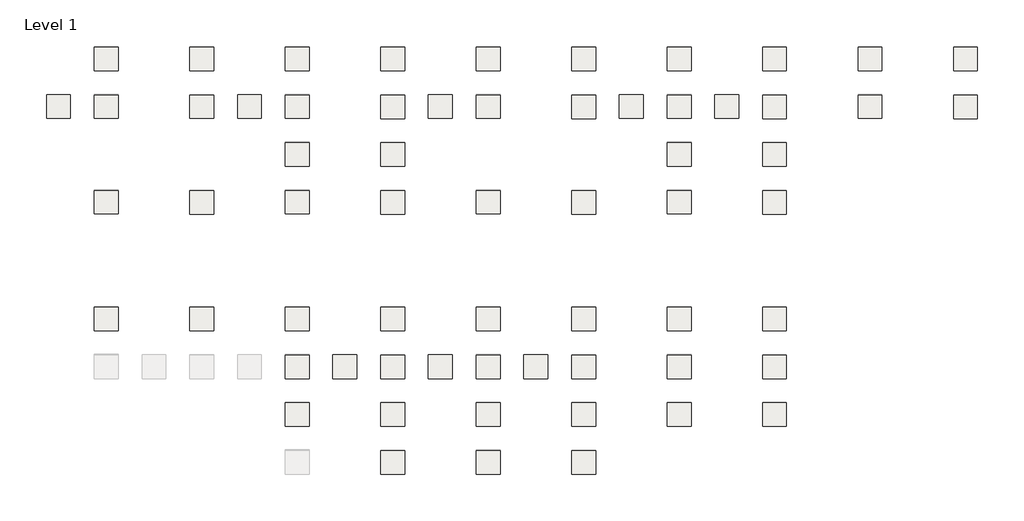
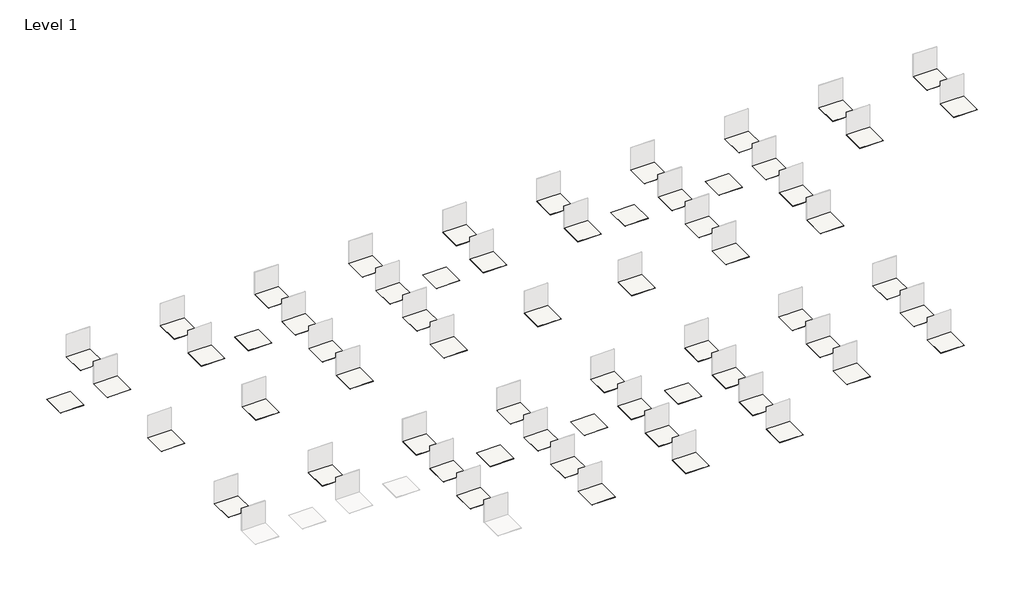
# One storey, part 2 of 2: 63 coverings.
"""IFC4 building model written with IfcOpenShell, lengths in millimetres."""

from ifc_helpers import new_model, si_unit, frame, origin, place, context, project, spatial, polyline, outline, extrude, element, save

model = new_model("IFC4")

# Units and contexts
model_context = context("Model", 3, world=origin())
ifc_project = project(units=[si_unit("LENGTHUNIT", "METRE", prefix="MILLI")], contexts=[model_context])

# Site, building, storey
site = spatial("IfcSite", under=ifc_project)
building = spatial("IfcBuilding", under=site)
storey = spatial("IfcBuildingStorey", under=building, Name="Level 1", Elevation=0.0)

# Coverings
placement = place(None, origin())
element("IfcCovering", 1, ObjectType="MARGRES-TIME 2.0-BASE-30X60-NR-BEIGE", at=placement, inside=storey, context=model_context, shape_type="SweptSolid", body=[
    extrude(outline(polyline([(5212.2694795, -3958.5049043), (5212.2694795, -4958.5049043), (4212.2694795, -4958.5049043), (4212.2694795, -3958.5049043), (5212.2694795, -3958.5049043)])), frame((0.0, 0.0, -10.0), z_axis=(0.0, 0.0, 1.0), x_axis=(1.0, 0.0, 0.0)), (0.0, 0.0, 1.0), 10.0),
])
element("IfcCovering", 2, ObjectType="MARGRES-TIME 2.0-BASE-30X60-P-BEIGE", at=placement, inside=storey, context=model_context, shape_type="SweptSolid", body=[
    extrude(outline(polyline([(9212.2694795, -3958.5049043), (9212.2694795, -4958.5049043), (8212.2694795, -4958.5049043), (8212.2694795, -3958.5049043), (9212.2694795, -3958.5049043)])), frame((0.0, 0.0, -9.5), z_axis=(0.0, 0.0, 1.0), x_axis=(1.0, 0.0, 0.0)), (0.0, 0.0, 1.0), 9.5),
])
element("IfcCovering", 3, ObjectType="MARGRES-TIME 2.0-BASE-60X60-ASR-BEIGE", at=placement, inside=storey, context=model_context, shape_type="SweptSolid", body=[
    extrude(outline(polyline([(3212.2694795, -5958.5049043), (3212.2694795, -6958.5049043), (2212.2694795, -6958.5049043), (2212.2694795, -5958.5049043), (3212.2694795, -5958.5049043)])), frame((0.0, 0.0, -10.0), z_axis=(0.0, 0.0, 1.0), x_axis=(1.0, 0.0, 0.0)), (0.0, 0.0, 1.0), 10.0),
])
element("IfcCovering", 4, ObjectType="MARGRES-TIME 2.0-BASE-60X60-NR-BEIGE", at=placement, inside=storey, context=model_context, shape_type="SweptSolid", body=[
    extrude(outline(polyline([(5212.2694795, -5958.5049043), (5212.2694795, -6958.5049043), (4212.2694795, -6958.5049043), (4212.2694795, -5958.5049043), (5212.2694795, -5958.5049043)])), frame((0.0, 0.0, -10.0), z_axis=(0.0, 0.0, 1.0), x_axis=(1.0, 0.0, 0.0)), (0.0, 0.0, 1.0), 10.0),
])
element("IfcCovering", 5, ObjectType="MARGRES-TIME 2.0-BASE-60X60-E NR-CREAM", at=placement, inside=storey, context=model_context, shape_type="SweptSolid", body=[
    extrude(outline(polyline([(31212.2694795, -5958.5049043), (31212.2694795, -6958.5049043), (30212.2694795, -6958.5049043), (30212.2694795, -5958.5049043), (31212.2694795, -5958.5049043)])), frame((0.0, 0.0, -14.0), z_axis=(0.0, 0.0, 1.0), x_axis=(1.0, 0.0, 0.0)), (0.0, 0.0, 1.0), 14.0),
])
element("IfcCovering", 6, ObjectType="MARGRES-TIME 2.0-BASE-60X60-P-BEIGE", at=placement, inside=storey, context=model_context, shape_type="SweptSolid", body=[
    extrude(outline(polyline([(9212.2694795, -5958.5049043), (9212.2694795, -6958.5049043), (8212.2694795, -6958.5049043), (8212.2694795, -5958.5049043), (9212.2694795, -5958.5049043)])), frame((0.0, 0.0, -9.5), z_axis=(0.0, 0.0, 1.0), x_axis=(1.0, 0.0, 0.0)), (0.0, 0.0, 1.0), 9.5),
])
element("IfcCovering", 7, ObjectType="MARGRES-TIME 2.0-BASE-60X120-NR-BLACK", at=placement, inside=storey, context=model_context, shape_type="SweptSolid", body=[
    extrude(outline(polyline([(13212.2694795, -7958.5049043), (13212.2694795, -8958.5049043), (12212.2694795, -8958.5049043), (12212.2694795, -7958.5049043), (13212.2694795, -7958.5049043)])), frame((0.0, 0.0, -11.0), z_axis=(0.0, 0.0, 1.0), x_axis=(1.0, 0.0, 0.0)), (0.0, 0.0, 1.0), 11.0),
])
element("IfcCovering", 8, ObjectType="MARGRES-TIME 2.0-BASE-60X120-P-BLACK", at=placement, inside=storey, context=model_context, shape_type="SweptSolid", body=[
    extrude(outline(polyline([(17212.2694795, -7958.5049043), (17212.2694795, -8958.5049043), (16212.2694795, -8958.5049043), (16212.2694795, -7958.5049043), (17212.2694795, -7958.5049043)])), frame((0.0, 0.0, -10.5), z_axis=(0.0, 0.0, 1.0), x_axis=(1.0, 0.0, 0.0)), (0.0, 0.0, 1.0), 10.5),
])
element("IfcCovering", 9, ObjectType="MARGRES-TIME 2.0-BASE-90X90-NR-BEIGE", at=placement, inside=storey, context=model_context, shape_type="SweptSolid", body=[
    extrude(outline(polyline([(5212.2694795, -9958.5049043), (5212.2694795, -10958.5049043), (4212.2694795, -10958.5049043), (4212.2694795, -9958.5049043), (5212.2694795, -9958.5049043)])), frame((0.0, 0.0, -11.0), z_axis=(0.0, 0.0, 1.0), x_axis=(1.0, 0.0, 0.0)), (0.0, 0.0, 1.0), 11.0),
])
element("IfcCovering", 10, ObjectType="MARGRES-TIME 2.0-BASE-90X90-P-BEIGE", at=placement, inside=storey, context=model_context, shape_type="SweptSolid", body=[
    extrude(outline(polyline([(9212.2694795, -9969.0049043), (9212.2694795, -10969.0049043), (8212.2694795, -10969.0049043), (8212.2694795, -9969.0049043), (9212.2694795, -9969.0049043)])), frame((0.0, 0.0, -10.5), z_axis=(0.0, 0.0, 1.0), x_axis=(1.0, 0.0, 0.0)), (0.0, 0.0, 1.0), 10.5),
])
element("IfcCovering", 11, ObjectType="MARGRES-TIME 2.0-BASE-30X60-NR-BLACK", at=placement, inside=storey, context=model_context, shape_type="SweptSolid", body=[
    extrude(outline(polyline([(13212.2694795, -3958.5049043), (13212.2694795, -4958.5049043), (12212.2694795, -4958.5049043), (12212.2694795, -3958.5049043), (13212.2694795, -3958.5049043)])), frame((0.0, 0.0, -10.0), z_axis=(0.0, 0.0, 1.0), x_axis=(1.0, 0.0, 0.0)), (0.0, 0.0, 1.0), 10.0),
])
element("IfcCovering", 12, ObjectType="MARGRES-TIME 2.0-BASE-30X60-P-BLACK", at=placement, inside=storey, context=model_context, shape_type="SweptSolid", body=[
    extrude(outline(polyline([(17212.2694795, -3958.5049043), (17212.2694795, -4958.5049043), (16212.2694795, -4958.5049043), (16212.2694795, -3958.5049043), (17212.2694795, -3958.5049043)])), frame((0.0, 0.0, -9.5), z_axis=(0.0, 0.0, 1.0), x_axis=(1.0, 0.0, 0.0)), (0.0, 0.0, 1.0), 9.5),
])
element("IfcCovering", 13, ObjectType="MARGRES-TIME 2.0-BASE-60X60-ASR-BLACK", at=placement, inside=storey, context=model_context, shape_type="SweptSolid", body=[
    extrude(outline(polyline([(11212.2694795, -5958.5049043), (11212.2694795, -6958.5049043), (10212.2694795, -6958.5049043), (10212.2694795, -5958.5049043), (11212.2694795, -5958.5049043)])), frame((0.0, 0.0, -10.0), z_axis=(0.0, 0.0, 1.0), x_axis=(1.0, 0.0, 0.0)), (0.0, 0.0, 1.0), 10.0),
])
element("IfcCovering", 14, ObjectType="MARGRES-TIME 2.0-BASE-60X60-NR-BLACK", at=placement, inside=storey, context=model_context, shape_type="SweptSolid", body=[
    extrude(outline(polyline([(13212.2694795, -5958.5049043), (13212.2694795, -6958.5049043), (12212.2694795, -6958.5049043), (12212.2694795, -5958.5049043), (13212.2694795, -5958.5049043)])), frame((0.0, 0.0, -10.0), z_axis=(0.0, 0.0, 1.0), x_axis=(1.0, 0.0, 0.0)), (0.0, 0.0, 1.0), 10.0),
])
element("IfcCovering", 15, ObjectType="MARGRES-TIME 2.0-BASE-60X60-P-BLACK", at=placement, inside=storey, context=model_context, shape_type="SweptSolid", body=[
    extrude(outline(polyline([(17212.2694795, -5968.0049043), (17212.2694795, -6968.5049043), (16212.2694795, -6968.5049043), (16212.2694795, -5968.0049043), (17212.2694795, -5968.0049043)])), frame((0.0, 0.0, -9.5), z_axis=(0.0, 0.0, 1.0), x_axis=(1.0, 0.0, 0.0)), (0.0, 0.0, 1.0), 9.5),
])
element("IfcCovering", 16, ObjectType="MARGRES-TIME 2.0-BASE-90X90-NR-BLACK", at=placement, inside=storey, context=model_context, shape_type="SweptSolid", body=[
    extrude(outline(polyline([(13212.2694795, -9958.5049043), (13212.2694795, -10958.5049043), (12212.2694795, -10958.5049043), (12212.2694795, -9958.5049043), (13212.2694795, -9958.5049043)])), frame((0.0, 0.0, -11.0), z_axis=(0.0, 0.0, 1.0), x_axis=(1.0, 0.0, 0.0)), (0.0, 0.0, 1.0), 11.0),
])
element("IfcCovering", 17, ObjectType="MARGRES-TIME 2.0-BASE-90X90-P-BLACK", at=placement, inside=storey, context=model_context, shape_type="SweptSolid", body=[
    extrude(outline(polyline([(17212.2694795, -9969.0049043), (17212.2694795, -10969.0049043), (16212.2694795, -10969.0049043), (16212.2694795, -9969.0049043), (17212.2694795, -9969.0049043)])), frame((0.0, 0.0, -10.5), z_axis=(0.0, 0.0, 1.0), x_axis=(1.0, 0.0, 0.0)), (0.0, 0.0, 1.0), 10.5),
])
element("IfcCovering", 18, ObjectType="MARGRES-TIME 2.0-BASE-60X120-NR-CREAM", at=placement, inside=storey, context=model_context, shape_type="SweptSolid", body=[
    extrude(outline(polyline([(29212.2694795, -7958.5049043), (29212.2694795, -8958.5049043), (28212.2694795, -8958.5049043), (28212.2694795, -7958.5049043), (29212.2694795, -7958.5049043)])), frame((0.0, 0.0, -11.0), z_axis=(0.0, 0.0, 1.0), x_axis=(1.0, 0.0, 0.0)), (0.0, 0.0, 1.0), 11.0),
])
element("IfcCovering", 19, ObjectType="MARGRES-TIME 2.0-BASE-60X120-P-CREAM", at=placement, inside=storey, context=model_context, shape_type="SweptSolid", body=[
    extrude(outline(polyline([(33212.2694795, -7958.5049043), (33212.2694795, -8958.5049043), (32212.2694795, -8958.5049043), (32212.2694795, -7958.5049043), (33212.2694795, -7958.5049043)])), frame((0.0, 0.0, -10.5), z_axis=(0.0, 0.0, 1.0), x_axis=(1.0, 0.0, 0.0)), (0.0, 0.0, 1.0), 10.5),
])
element("IfcCovering", 20, ObjectType="MARGRES-TIME 2.0-BASE-30X60-NR-CARBON", at=placement, inside=storey, context=model_context, shape_type="SweptSolid", body=[
    extrude(outline(polyline([(21212.2694795, -3958.5049043), (21212.2694795, -4958.5049043), (20212.2694795, -4958.5049043), (20212.2694795, -3958.5049043), (21212.2694795, -3958.5049043)])), frame((0.0, 0.0, -10.0), z_axis=(0.0, 0.0, 1.0), x_axis=(1.0, 0.0, 0.0)), (0.0, 0.0, 1.0), 10.0),
])
element("IfcCovering", 21, ObjectType="MARGRES-TIME 2.0-BASE-30X60-P-CARBON", at=placement, inside=storey, context=model_context, shape_type="SweptSolid", body=[
    extrude(outline(polyline([(25212.2694795, -3958.5049043), (25212.2694795, -4958.5049043), (24212.2694795, -4958.5049043), (24212.2694795, -3958.5049043), (25212.2694795, -3958.5049043)])), frame((0.0, 0.0, -9.5), z_axis=(0.0, 0.0, 1.0), x_axis=(1.0, 0.0, 0.0)), (0.0, 0.0, 1.0), 9.5),
])
element("IfcCovering", 22, ObjectType="MARGRES-TIME 2.0-BASE-60X60-ASR-CARBON", at=placement, inside=storey, context=model_context, shape_type="SweptSolid", body=[
    extrude(outline(polyline([(19212.2694795, -5958.5049043), (19212.2694795, -6958.5049043), (18212.2694795, -6958.5049043), (18212.2694795, -5958.5049043), (19212.2694795, -5958.5049043)])), frame((0.0, 0.0, -10.0), z_axis=(0.0, 0.0, 1.0), x_axis=(1.0, 0.0, 0.0)), (0.0, 0.0, 1.0), 10.0),
])
element("IfcCovering", 23, ObjectType="MARGRES-TIME 2.0-BASE-60X60-NR-CARBON", at=placement, inside=storey, context=model_context, shape_type="SweptSolid", body=[
    extrude(outline(polyline([(21212.2694795, -5958.5049043), (21212.2694795, -6958.5049043), (20212.2694795, -6958.5049043), (20212.2694795, -5958.5049043), (21212.2694795, -5958.5049043)])), frame((0.0, 0.0, -10.0), z_axis=(0.0, 0.0, 1.0), x_axis=(1.0, 0.0, 0.0)), (0.0, 0.0, 1.0), 10.0),
])
element("IfcCovering", 24, ObjectType="MARGRES-TIME 2.0-BASE-60X60-P-CARBON", at=placement, inside=storey, context=model_context, shape_type="SweptSolid", body=[
    extrude(outline(polyline([(25212.2694795, -5968.0049043), (25212.2694795, -6968.5049043), (24212.2694795, -6968.5049043), (24212.2694795, -5968.0049043), (25212.2694795, -5968.0049043)])), frame((0.0, 0.0, -9.5), z_axis=(0.0, 0.0, 1.0), x_axis=(1.0, 0.0, 0.0)), (0.0, 0.0, 1.0), 9.5),
])
element("IfcCovering", 25, ObjectType="MARGRES-TIME 2.0-BASE-90X90-NR-CARBON", at=placement, inside=storey, context=model_context, shape_type="SweptSolid", body=[
    extrude(outline(polyline([(21212.2694795, -9958.5049043), (21212.2694795, -10958.5049043), (20212.2694795, -10958.5049043), (20212.2694795, -9958.5049043), (21212.2694795, -9958.5049043)])), frame((0.0, 0.0, -11.0), z_axis=(0.0, 0.0, 1.0), x_axis=(1.0, 0.0, 0.0)), (0.0, 0.0, 1.0), 11.0),
])
element("IfcCovering", 26, ObjectType="MARGRES-TIME 2.0-BASE-90X90-P-CARBON", at=placement, inside=storey, context=model_context, shape_type="SweptSolid", body=[
    extrude(outline(polyline([(25212.2694795, -9969.0049043), (25212.2694795, -10969.0049043), (24212.2694795, -10969.0049043), (24212.2694795, -9969.0049043), (25212.2694795, -9969.0049043)])), frame((0.0, 0.0, -10.5), z_axis=(0.0, 0.0, 1.0), x_axis=(1.0, 0.0, 0.0)), (0.0, 0.0, 1.0), 10.5),
])
element("IfcCovering", 27, ObjectType="MARGRES-TIME 2.0-BASE-30X60-NR-CREAM", at=placement, inside=storey, context=model_context, shape_type="SweptSolid", body=[
    extrude(outline(polyline([(29212.2694795, -3958.5049043), (29212.2694795, -4958.5049043), (28212.2694795, -4958.5049043), (28212.2694795, -3958.5049043), (29212.2694795, -3958.5049043)])), frame((0.0, 0.0, -10.0), z_axis=(0.0, 0.0, 1.0), x_axis=(1.0, 0.0, 0.0)), (0.0, 0.0, 1.0), 10.0),
])
element("IfcCovering", 28, ObjectType="MARGRES-TIME 2.0-BASE-30X60-P-CREAM", at=placement, inside=storey, context=model_context, shape_type="SweptSolid", body=[
    extrude(outline(polyline([(33212.2694795, -3958.5049043), (33212.2694795, -4958.5049043), (32212.2694795, -4958.5049043), (32212.2694795, -3958.5049043), (33212.2694795, -3958.5049043)])), frame((0.0, 0.0, -9.5), z_axis=(0.0, 0.0, 1.0), x_axis=(1.0, 0.0, 0.0)), (0.0, 0.0, 1.0), 9.5),
])
element("IfcCovering", 29, ObjectType="MARGRES-TIME 2.0-BASE-60X60-ASR-CREAM", at=placement, inside=storey, context=model_context, shape_type="SweptSolid", body=[
    extrude(outline(polyline([(27212.2694795, -5958.5049043), (27212.2694795, -6958.5049043), (26212.2694795, -6958.5049043), (26212.2694795, -5958.5049043), (27212.2694795, -5958.5049043)])), frame((0.0, 0.0, -10.0), z_axis=(0.0, 0.0, 1.0), x_axis=(1.0, 0.0, 0.0)), (0.0, 0.0, 1.0), 10.0),
])
element("IfcCovering", 30, ObjectType="MARGRES-TIME 2.0-BASE-60X60-NR-CREAM", at=placement, inside=storey, context=model_context, shape_type="SweptSolid", body=[
    extrude(outline(polyline([(29212.2694795, -5958.5049043), (29212.2694795, -6958.5049043), (28212.2694795, -6958.5049043), (28212.2694795, -5958.5049043), (29212.2694795, -5958.5049043)])), frame((0.0, 0.0, -10.0), z_axis=(0.0, 0.0, 1.0), x_axis=(1.0, 0.0, 0.0)), (0.0, 0.0, 1.0), 10.0),
])
element("IfcCovering", 31, ObjectType="MARGRES-TIME 2.0-BASE-60X60-P-CREAM", at=placement, inside=storey, context=model_context, shape_type="SweptSolid", body=[
    extrude(outline(polyline([(33212.2694795, -5968.0049043), (33212.2694795, -6968.5049043), (32212.2694795, -6968.5049043), (32212.2694795, -5968.0049043), (33212.2694795, -5968.0049043)])), frame((0.0, 0.0, -9.5), z_axis=(0.0, 0.0, 1.0), x_axis=(1.0, 0.0, 0.0)), (0.0, 0.0, 1.0), 9.5),
])
element("IfcCovering", 32, ObjectType="MARGRES-TIME 2.0-BASE-90X90-NR-CREAM", at=placement, inside=storey, context=model_context, shape_type="SweptSolid", body=[
    extrude(outline(polyline([(29212.2694795, -9958.5049043), (29212.2694795, -10958.5049043), (28212.2694795, -10958.5049043), (28212.2694795, -9958.5049043), (29212.2694795, -9958.5049043)])), frame((0.0, 0.0, -11.0), z_axis=(0.0, 0.0, 1.0), x_axis=(1.0, 0.0, 0.0)), (0.0, 0.0, 1.0), 11.0),
])
element("IfcCovering", 33, ObjectType="MARGRES-TIME 2.0-BASE-90X90-P-CREAM", at=placement, inside=storey, context=model_context, shape_type="SweptSolid", body=[
    extrude(outline(polyline([(33212.2694795, -9969.0049043), (33212.2694795, -10969.0049043), (32212.2694795, -10969.0049043), (32212.2694795, -9969.0049043), (33212.2694795, -9969.0049043)])), frame((0.0, 0.0, -10.5), z_axis=(0.0, 0.0, 1.0), x_axis=(1.0, 0.0, 0.0)), (0.0, 0.0, 1.0), 10.5),
])
element("IfcCovering", 34, ObjectType="MARGRES-TIME 2.0-BASE-30X60-NR-DOVE", at=placement, inside=storey, context=model_context, shape_type="SweptSolid", body=[
    extrude(outline(polyline([(37212.2694795, -3958.5049043), (37212.2694795, -4958.5049043), (36212.2694795, -4958.5049043), (36212.2694795, -3958.5049043), (37212.2694795, -3958.5049043)])), frame((0.0, 0.0, -10.0), z_axis=(0.0, 0.0, 1.0), x_axis=(1.0, 0.0, 0.0)), (0.0, 0.0, 1.0), 10.0),
])
element("IfcCovering", 35, ObjectType="MARGRES-TIME 2.0-BASE-30X60-P-DOVE", at=placement, inside=storey, context=model_context, shape_type="SweptSolid", body=[
    extrude(outline(polyline([(41212.2694795, -3958.5049043), (41212.2694795, -4958.5049043), (40212.2694795, -4958.5049043), (40212.2694795, -3958.5049043), (41212.2694795, -3958.5049043)])), frame((0.0, 0.0, -9.5), z_axis=(0.0, 0.0, 1.0), x_axis=(1.0, 0.0, 0.0)), (0.0, 0.0, 1.0), 9.5),
])
element("IfcCovering", 36, ObjectType="MARGRES-TIME 2.0-BASE-60X60-NR-DOVE", at=placement, inside=storey, context=model_context, shape_type="SweptSolid", body=[
    extrude(outline(polyline([(37212.2694795, -5958.5049043), (37212.2694795, -6958.5049043), (36212.2694795, -6958.5049043), (36212.2694795, -5958.5049043), (37212.2694795, -5958.5049043)])), frame((0.0, 0.0, -10.0), z_axis=(0.0, 0.0, 1.0), x_axis=(1.0, 0.0, 0.0)), (0.0, 0.0, 1.0), 10.0),
])
element("IfcCovering", 37, ObjectType="MARGRES-TIME 2.0-BASE-60X60-P-DOVE", at=placement, inside=storey, context=model_context, shape_type="SweptSolid", body=[
    extrude(outline(polyline([(41212.2694795, -5968.0049043), (41212.2694795, -6968.5049043), (40212.2694795, -6968.5049043), (40212.2694795, -5968.0049043), (41212.2694795, -5968.0049043)])), frame((0.0, 0.0, -9.5), z_axis=(0.0, 0.0, 1.0), x_axis=(1.0, 0.0, 0.0)), (0.0, 0.0, 1.0), 9.5),
])
element("IfcCovering", 38, ObjectType="MARGRES-TIME 2.0-BASE-60X120-NR-SILVER", at=placement, inside=storey, context=model_context, shape_type="SweptSolid", body=[
    extrude(outline(polyline([(13212.2694795, -18858.5049043), (13212.2694795, -19858.5049043), (12212.2694795, -19858.5049043), (12212.2694795, -18858.5049043), (13212.2694795, -18858.5049043)])), frame((0.0, 0.0, -11.0), z_axis=(0.0, 0.0, 1.0), x_axis=(1.0, 0.0, 0.0)), (0.0, 0.0, 1.0), 11.0),
])
element("IfcCovering", 39, ObjectType="MARGRES-TIME 2.0-BASE-60X120-P-SILVER", at=placement, inside=storey, context=model_context, shape_type="SweptSolid", body=[
    extrude(outline(polyline([(17212.2694795, -18858.5049043), (17212.2694795, -19858.5049043), (16212.2694795, -19858.5049043), (16212.2694795, -18858.5049043), (17212.2694795, -18858.5049043)])), frame((0.0, 0.0, -10.5), z_axis=(0.0, 0.0, 1.0), x_axis=(1.0, 0.0, 0.0)), (0.0, 0.0, 1.0), 10.5),
])
element("IfcCovering", 40, ObjectType="MARGRES-TIME 2.0-BASE-30X60-NR-GREY", at=placement, inside=storey, context=model_context, shape_type="SweptSolid", body=[
    extrude(outline(polyline([(5212.2694795, -14858.5049043), (5212.2694795, -15858.5049043), (4212.2694795, -15858.5049043), (4212.2694795, -14858.5049043), (5212.2694795, -14858.5049043)])), frame((0.0, 0.0, -10.0), z_axis=(0.0, 0.0, 1.0), x_axis=(1.0, 0.0, 0.0)), (0.0, 0.0, 1.0), 10.0),
])
element("IfcCovering", 41, ObjectType="MARGRES-TIME 2.0-BASE-30X60-P-GREY", at=placement, inside=storey, context=model_context, shape_type="SweptSolid", body=[
    extrude(outline(polyline([(9212.2694795, -14858.5049043), (9212.2694795, -15858.5049043), (8212.2694795, -15858.5049043), (8212.2694795, -14858.5049043), (9212.2694795, -14858.5049043)])), frame((0.0, 0.0, -9.5), z_axis=(0.0, 0.0, 1.0), x_axis=(1.0, 0.0, 0.0)), (0.0, 0.0, 1.0), 9.5),
])
element("IfcCovering", 42, ObjectType="MARGRES-TIME 2.0-BASE-90X90-P-SILVER", at=placement, inside=storey, context=model_context, shape_type="SweptSolid", body=[
    extrude(outline(polyline([(17212.2694795, -20869.0049043), (17212.2694795, -21869.0049043), (16212.2694795, -21869.0049043), (16212.2694795, -20869.0049043), (17212.2694795, -20869.0049043)])), frame((0.0, 0.0, -10.5), z_axis=(0.0, 0.0, 1.0), x_axis=(1.0, 0.0, 0.0)), (0.0, 0.0, 1.0), 10.5),
])
element("IfcCovering", 43, ObjectType="MARGRES-TIME 2.0-BASE-60X60-E NR-SILVER", at=placement, inside=storey, context=model_context, shape_type="SweptSolid", body=[
    extrude(outline(polyline([(15212.2694795, -16858.5049043), (15212.2694795, -17858.5049043), (14212.2694795, -17858.5049043), (14212.2694795, -16858.5049043), (15212.2694795, -16858.5049043)])), frame((0.0, 0.0, -14.0), z_axis=(0.0, 0.0, 1.0), x_axis=(1.0, 0.0, 0.0)), (0.0, 0.0, 1.0), 14.0),
])
element("IfcCovering", 44, ObjectType="MARGRES-TIME 2.0-BASE-30X60-NR-SILVER", at=placement, inside=storey, context=model_context, shape_type="SweptSolid", body=[
    extrude(outline(polyline([(13212.2694795, -14858.5049043), (13212.2694795, -15858.5049043), (12212.2694795, -15858.5049043), (12212.2694795, -14858.5049043), (13212.2694795, -14858.5049043)])), frame((0.0, 0.0, -10.0), z_axis=(0.0, 0.0, 1.0), x_axis=(1.0, 0.0, 0.0)), (0.0, 0.0, 1.0), 10.0),
])
element("IfcCovering", 45, ObjectType="MARGRES-TIME 2.0-BASE-30X60-P-SILVER", at=placement, inside=storey, context=model_context, shape_type="SweptSolid", body=[
    extrude(outline(polyline([(17212.2694795, -14858.5049043), (17212.2694795, -15858.5049043), (16212.2694795, -15858.5049043), (16212.2694795, -14858.5049043), (17212.2694795, -14858.5049043)])), frame((0.0, 0.0, -9.5), z_axis=(0.0, 0.0, 1.0), x_axis=(1.0, 0.0, 0.0)), (0.0, 0.0, 1.0), 9.5),
])
element("IfcCovering", 46, ObjectType="MARGRES-TIME 2.0-BASE-60X60-NR-SILVER", at=placement, inside=storey, context=model_context, shape_type="SweptSolid", body=[
    extrude(outline(polyline([(13212.2694795, -16858.5049043), (13212.2694795, -17858.5049043), (12212.2694795, -17858.5049043), (12212.2694795, -16858.5049043), (13212.2694795, -16858.5049043)])), frame((0.0, 0.0, -10.0), z_axis=(0.0, 0.0, 1.0), x_axis=(1.0, 0.0, 0.0)), (0.0, 0.0, 1.0), 10.0),
])
element("IfcCovering", 47, ObjectType="MARGRES-TIME 2.0-BASE-60X60-P-SILVER", at=placement, inside=storey, context=model_context, shape_type="SweptSolid", body=[
    extrude(outline(polyline([(17212.2694795, -16868.0049043), (17212.2694795, -17868.5049043), (16212.2694795, -17868.5049043), (16212.2694795, -16868.0049043), (17212.2694795, -16868.0049043)])), frame((0.0, 0.0, -9.5), z_axis=(0.0, 0.0, 1.0), x_axis=(1.0, 0.0, 0.0)), (0.0, 0.0, 1.0), 9.5),
])
element("IfcCovering", 48, ObjectType="MARGRES-TIME 2.0-BASE-60X120-NR-SNOW", at=placement, inside=storey, context=model_context, shape_type="SweptSolid", body=[
    extrude(outline(polyline([(21212.2694795, -18858.5049043), (21212.2694795, -19858.5049043), (20212.2694795, -19858.5049043), (20212.2694795, -18858.5049043), (21212.2694795, -18858.5049043)])), frame((0.0, 0.0, -11.0), z_axis=(0.0, 0.0, 1.0), x_axis=(1.0, 0.0, 0.0)), (0.0, 0.0, 1.0), 11.0),
])
element("IfcCovering", 49, ObjectType="MARGRES-TIME 2.0-BASE-60X120-P-SNOW", at=placement, inside=storey, context=model_context, shape_type="SweptSolid", body=[
    extrude(outline(polyline([(25212.2694795, -18858.5049043), (25212.2694795, -19858.5049043), (24212.2694795, -19858.5049043), (24212.2694795, -18858.5049043), (25212.2694795, -18858.5049043)])), frame((0.0, 0.0, -10.5), z_axis=(0.0, 0.0, 1.0), x_axis=(1.0, 0.0, 0.0)), (0.0, 0.0, 1.0), 10.5),
])
element("IfcCovering", 50, ObjectType="MARGRES-TIME 2.0-BASE-90X90-NR-SNOW", at=placement, inside=storey, context=model_context, shape_type="SweptSolid", body=[
    extrude(outline(polyline([(21212.2694795, -20858.5049043), (21212.2694795, -21858.5049043), (20212.2694795, -21858.5049043), (20212.2694795, -20858.5049043), (21212.2694795, -20858.5049043)])), frame((0.0, 0.0, -11.0), z_axis=(0.0, 0.0, 1.0), x_axis=(1.0, 0.0, 0.0)), (0.0, 0.0, 1.0), 11.0),
])
element("IfcCovering", 51, ObjectType="MARGRES-TIME 2.0-BASE-90X90-P-SNOW", at=placement, inside=storey, context=model_context, shape_type="SweptSolid", body=[
    extrude(outline(polyline([(25212.2694795, -20869.0049043), (25212.2694795, -21869.0049043), (24212.2694795, -21869.0049043), (24212.2694795, -20869.0049043), (25212.2694795, -20869.0049043)])), frame((0.0, 0.0, -10.5), z_axis=(0.0, 0.0, 1.0), x_axis=(1.0, 0.0, 0.0)), (0.0, 0.0, 1.0), 10.5),
])
element("IfcCovering", 52, ObjectType="MARGRES-TIME 2.0-BASE-60X60-E NR-SNOW", at=placement, inside=storey, context=model_context, shape_type="SweptSolid", body=[
    extrude(outline(polyline([(23212.2694795, -16858.5049043), (23212.2694795, -17858.5049043), (22212.2694795, -17858.5049043), (22212.2694795, -16858.5049043), (23212.2694795, -16858.5049043)])), frame((0.0, 0.0, -14.0), z_axis=(0.0, 0.0, 1.0), x_axis=(1.0, 0.0, 0.0)), (0.0, 0.0, 1.0), 14.0),
])
element("IfcCovering", 53, ObjectType="MARGRES-TIME 2.0-BASE-30X60-NR-SNOW", at=placement, inside=storey, context=model_context, shape_type="SweptSolid", body=[
    extrude(outline(polyline([(21212.2694795, -14858.5049043), (21212.2694795, -15858.5049043), (20212.2694795, -15858.5049043), (20212.2694795, -14858.5049043), (21212.2694795, -14858.5049043)])), frame((0.0, 0.0, -10.0), z_axis=(0.0, 0.0, 1.0), x_axis=(1.0, 0.0, 0.0)), (0.0, 0.0, 1.0), 10.0),
])
element("IfcCovering", 54, ObjectType="MARGRES-TIME 2.0-BASE-30X60-P-SNOW", at=placement, inside=storey, context=model_context, shape_type="SweptSolid", body=[
    extrude(outline(polyline([(25212.2694795, -14858.5049043), (25212.2694795, -15858.5049043), (24212.2694795, -15858.5049043), (24212.2694795, -14858.5049043), (25212.2694795, -14858.5049043)])), frame((0.0, 0.0, -9.5), z_axis=(0.0, 0.0, 1.0), x_axis=(1.0, 0.0, 0.0)), (0.0, 0.0, 1.0), 9.5),
])
element("IfcCovering", 55, ObjectType="MARGRES-TIME 2.0-BASE-60X60-NR-SNOW", at=placement, inside=storey, context=model_context, shape_type="SweptSolid", body=[
    extrude(outline(polyline([(21212.2694795, -16858.5049043), (21212.2694795, -17858.5049043), (20212.2694795, -17858.5049043), (20212.2694795, -16858.5049043), (21212.2694795, -16858.5049043)])), frame((0.0, 0.0, -10.0), z_axis=(0.0, 0.0, 1.0), x_axis=(1.0, 0.0, 0.0)), (0.0, 0.0, 1.0), 10.0),
])
element("IfcCovering", 56, ObjectType="MARGRES-TIME 2.0-BASE-60X60-P-SNOW", at=placement, inside=storey, context=model_context, shape_type="SweptSolid", body=[
    extrude(outline(polyline([(25212.2694795, -16868.0049043), (25212.2694795, -17868.5049043), (24212.2694795, -17868.5049043), (24212.2694795, -16868.0049043), (25212.2694795, -16868.0049043)])), frame((0.0, 0.0, -9.5), z_axis=(0.0, 0.0, 1.0), x_axis=(1.0, 0.0, 0.0)), (0.0, 0.0, 1.0), 9.5),
])
element("IfcCovering", 57, ObjectType="MARGRES-TIME 2.0-BASE-60X120-NR-WHITE", at=placement, inside=storey, context=model_context, shape_type="SweptSolid", body=[
    extrude(outline(polyline([(29212.2694795, -18858.5049043), (29212.2694795, -19858.5049043), (28212.2694795, -19858.5049043), (28212.2694795, -18858.5049043), (29212.2694795, -18858.5049043)])), frame((0.0, 0.0, -11.0), z_axis=(0.0, 0.0, 1.0), x_axis=(1.0, 0.0, 0.0)), (0.0, 0.0, 1.0), 11.0),
])
element("IfcCovering", 58, ObjectType="MARGRES-TIME 2.0-BASE-60X120-P-WHITE", at=placement, inside=storey, context=model_context, shape_type="SweptSolid", body=[
    extrude(outline(polyline([(33212.2694795, -18858.5049043), (33212.2694795, -19858.5049043), (32212.2694795, -19858.5049043), (32212.2694795, -18858.5049043), (33212.2694795, -18858.5049043)])), frame((0.0, 0.0, -10.5), z_axis=(0.0, 0.0, 1.0), x_axis=(1.0, 0.0, 0.0)), (0.0, 0.0, 1.0), 10.5),
])
element("IfcCovering", 59, ObjectType="MARGRES-TIME 2.0-BASE-30X60-NR-WHITE", at=placement, inside=storey, context=model_context, shape_type="SweptSolid", body=[
    extrude(outline(polyline([(29212.2694795, -14858.5049043), (29212.2694795, -15858.5049043), (28212.2694795, -15858.5049043), (28212.2694795, -14858.5049043), (29212.2694795, -14858.5049043)])), frame((0.0, 0.0, -10.0), z_axis=(0.0, 0.0, 1.0), x_axis=(1.0, 0.0, 0.0)), (0.0, 0.0, 1.0), 10.0),
])
element("IfcCovering", 60, ObjectType="MARGRES-TIME 2.0-BASE-30X60-P-WHITE", at=placement, inside=storey, context=model_context, shape_type="SweptSolid", body=[
    extrude(outline(polyline([(33212.2694795, -14858.5049043), (33212.2694795, -15858.5049043), (32212.2694795, -15858.5049043), (32212.2694795, -14858.5049043), (33212.2694795, -14858.5049043)])), frame((0.0, 0.0, -9.5), z_axis=(0.0, 0.0, 1.0), x_axis=(1.0, 0.0, 0.0)), (0.0, 0.0, 1.0), 9.5),
])
element("IfcCovering", 61, ObjectType="MARGRES-TIME 2.0-BASE-60X60-NR-WHITE", at=placement, inside=storey, context=model_context, shape_type="SweptSolid", body=[
    extrude(outline(polyline([(29212.2694795, -16858.5049043), (29212.2694795, -17858.5049043), (28212.2694795, -17858.5049043), (28212.2694795, -16858.5049043), (29212.2694795, -16858.5049043)])), frame((0.0, 0.0, -10.0), z_axis=(0.0, 0.0, 1.0), x_axis=(1.0, 0.0, 0.0)), (0.0, 0.0, 1.0), 10.0),
])
element("IfcCovering", 62, ObjectType="MARGRES-TIME 2.0-BASE-60X60-P-WHITE", at=placement, inside=storey, context=model_context, shape_type="SweptSolid", body=[
    extrude(outline(polyline([(33212.2694795, -16868.0049043), (33212.2694795, -17868.5049043), (32212.2694795, -17868.5049043), (32212.2694795, -16868.0049043), (33212.2694795, -16868.0049043)])), frame((0.0, 0.0, -9.5), z_axis=(0.0, 0.0, 1.0), x_axis=(1.0, 0.0, 0.0)), (0.0, 0.0, 1.0), 9.5),
])
element("IfcCovering", 63, ObjectType="MARGRES-TIME 2.0-BASE-60X60-ASR-SNOW", at=placement, inside=storey, context=model_context, shape_type="SweptSolid", body=[
    extrude(outline(polyline([(19212.2694795, -16858.5049043), (19212.2694795, -17858.5049043), (18212.2694795, -17858.5049043), (18212.2694795, -16858.5049043), (19212.2694795, -16858.5049043)])), frame((0.0, 0.0, -10.0), z_axis=(0.0, 0.0, 1.0), x_axis=(1.0, 0.0, 0.0)), (0.0, 0.0, 1.0), 10.0),
])

save(model, "model.ifc")
